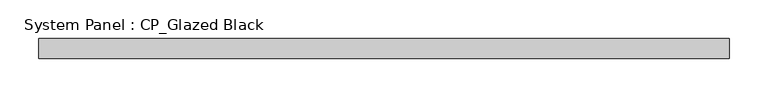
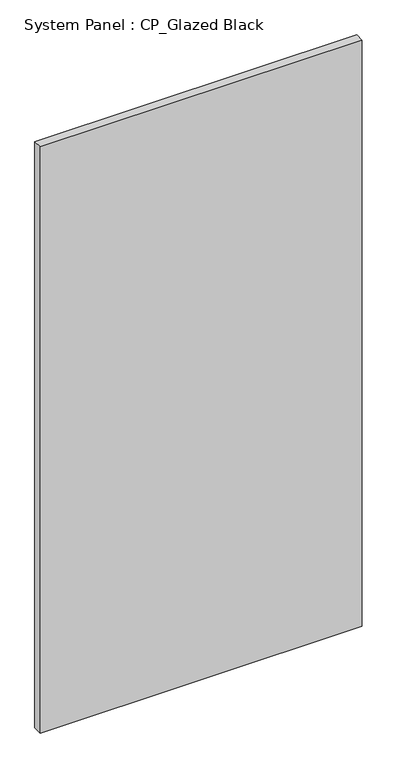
"""IFC4 building model written with IfcOpenShell, lengths in millimetres: plate geometry, System Panel : CP_Glazed Black."""

import ifcopenshell
import ifcopenshell.guid

model = None  # the IFC model being written
_history = None  # IfcOwnerHistory: only IFC2X3 demands one
_inside = {}  # id of a spatial element -> (the spatial element, [elements in it])
_under = {}  # id of a project, library or spatial element -> (it, [spatial elements below it])
_declared = {}  # id of a project -> (the project, [libraries it declares])
_typed = {}  # id of a type object -> (the type object, [elements of that type])
_made_of = {}  # id of a material, layer set ... -> (it, [elements and type objects made of it])


def new_model(schema):
    """Start an empty IFC model of exactly this schema.

    Asked for "IFC4X3", IfcOpenShell would pick the latest addendum, in which some entities
    have other attributes; the version numbers below select the first issue.
    IFC2X3 requires an IfcOwnerHistory on every rooted entity: one is made here for all.
    """
    global model, _history
    if schema == "IFC4X3":
        model = ifcopenshell.file(schema_version=(4, 3, 0, 0))
    else:
        model = ifcopenshell.file(schema=schema)
    _inside.clear()
    _under.clear()
    _declared.clear()
    _typed.clear()
    _made_of.clear()
    _history = None
    if model.schema == "IFC2X3":
        org = make("IfcOrganization", Name="unknown")
        user = make(
            "IfcPersonAndOrganization",
            ThePerson=make("IfcPerson", FamilyName="unknown"),
            TheOrganization=org,
        )
        app = make(
            "IfcApplication",
            ApplicationDeveloper=org,
            Version="unknown",
            ApplicationFullName="unknown",
            ApplicationIdentifier="unknown",
        )
        _history = make(
            "IfcOwnerHistory",
            OwningUser=user,
            OwningApplication=app,
            ChangeAction="ADDED",
            CreationDate=0,
        )
    return model


def make(cls, **values):
    """One entity of the class cls with the attributes given. An attribute that is None is left unset."""
    return model.create_entity(
        cls, **{name: value for name, value in values.items() if value is not None}
    )


def rooted(cls, **values):
    """An entity with a GlobalId (a new one), such as an element, a storey or a relation."""
    return make(cls, GlobalId=ifcopenshell.guid.new(), OwnerHistory=_history, **values)


def si_unit(unit_type, name, prefix=None):
    """IfcSIUnit, for example si_unit("LENGTHUNIT", "METRE", prefix="MILLI")."""
    return make("IfcSIUnit", UnitType=unit_type, Prefix=prefix, Name=name)


def assignment(units):
    """IfcUnitAssignment: the units of a project."""
    return None if units is None else make("IfcUnitAssignment", Units=units)


def point(xyz):
    """IfcCartesianPoint."""
    return None if xyz is None else make("IfcCartesianPoint", Coordinates=xyz)


def direction(xyz):
    """IfcDirection."""
    return None if xyz is None else make("IfcDirection", DirectionRatios=xyz)


def frame(location, z_axis=None, x_axis=None):
    """IfcAxis2Placement3D, a coordinate frame: its origin and axes. An axis left out is left unset."""
    return make(
        "IfcAxis2Placement3D",
        Location=point(location),
        Axis=direction(z_axis),
        RefDirection=direction(x_axis),
    )


def origin():
    """The frame at (0, 0, 0) with its axes left unset."""
    return frame((0.0, 0.0, 0.0))


def origin_with_axes():
    """The frame at (0, 0, 0) with the z axis (0, 0, 1) and the x axis (1, 0, 0) written out."""
    return frame((0.0, 0.0, 0.0), z_axis=(0.0, 0.0, 1.0), x_axis=(1.0, 0.0, 0.0))


def place(relative_to, where):
    """IfcLocalPlacement: puts the frame where relative to a parent placement (None: the world)."""
    return make(
        "IfcLocalPlacement", PlacementRelTo=relative_to, RelativePlacement=where
    )


def context(
    kind, dimensions, precision=None, world=None, true_north=None, identifier=None
):
    """IfcGeometricRepresentationContext, for example the 3D "Model" context."""
    return make(
        "IfcGeometricRepresentationContext",
        ContextIdentifier=identifier,
        ContextType=kind,
        CoordinateSpaceDimension=dimensions,
        Precision=precision,
        WorldCoordinateSystem=world,
        TrueNorth=true_north,
    )


def project(units=None, contexts=None):
    """IfcProject with its units and contexts."""
    return rooted(
        "IfcProject",
        Name="project",
        RepresentationContexts=contexts,
        UnitsInContext=assignment(units),
    )


def spatial(cls, under=None, at=None, **own):
    """A site, building, storey or space (cls), placed at a placement, below another one or the project."""
    s = rooted(cls, ObjectPlacement=at, **own)
    if under is not None:
        _under.setdefault(under.id(), (under, []))[1].append(s)
    return s


def polyline(points):
    """IfcPolyline through the points."""
    return make("IfcPolyline", Points=[point(p) for p in points])


def outline(outer, holes=None, kind="AREA"):
    """IfcArbitraryClosedProfileDef: a profile drawn as a closed curve; with holes, ...WithVoids."""
    if holes is None:
        return make("IfcArbitraryClosedProfileDef", ProfileType=kind, OuterCurve=outer)
    return make(
        "IfcArbitraryProfileDefWithVoids",
        ProfileType=kind,
        OuterCurve=outer,
        InnerCurves=holes,
    )


def extrude(swept, where, along, depth):
    """IfcExtrudedAreaSolid: the profile swept, set in the frame where, extruded along a direction by depth."""
    return make(
        "IfcExtrudedAreaSolid",
        SweptArea=swept,
        Position=where,
        ExtrudedDirection=direction(along),
        Depth=depth,
    )


def shape(context_of_items, identifier, shape_type, items):
    """IfcShapeRepresentation: the items that make up one representation, for example the "Body"."""
    return make(
        "IfcShapeRepresentation",
        ContextOfItems=context_of_items,
        RepresentationIdentifier=identifier,
        RepresentationType=shape_type,
        Items=items,
    )


def source(mapping_origin, context_of_items, identifier, shape_type, items):
    """IfcRepresentationMap: a shape defined once, which mapped items show again and again."""
    return make(
        "IfcRepresentationMap",
        MappingOrigin=mapping_origin,
        MappedRepresentation=shape(context_of_items, identifier, shape_type, items),
    )


def transform(
    local_origin,
    x_axis=None,
    y_axis=None,
    z_axis=None,
    scale=None,
    scale2=None,
    scale3=None,
    uniform=True,
):
    """IfcCartesianTransformationOperator3D, or its non-uniform kind. x_axis, y_axis, z_axis: its Axis1, 2, 3."""
    if uniform:
        return make(
            "IfcCartesianTransformationOperator3D",
            Axis1=direction(x_axis),
            Axis2=direction(y_axis),
            LocalOrigin=point(local_origin),
            Scale=scale,
            Axis3=direction(z_axis),
        )
    return make(
        "IfcCartesianTransformationOperator3DnonUniform",
        Axis1=direction(x_axis),
        Axis2=direction(y_axis),
        LocalOrigin=point(local_origin),
        Scale=scale,
        Axis3=direction(z_axis),
        Scale2=scale2,
        Scale3=scale3,
    )


def mapped(mapping_source, mapping_target):
    """IfcMappedItem: shows the shape of a source again, moved by a transform."""
    return make(
        "IfcMappedItem", MappingSource=mapping_source, MappingTarget=mapping_target
    )


def made_of(thing, what):
    """Note that an element or type object is made of a material, layer set ...; save() writes the relation."""
    if what is not None:
        _made_of.setdefault(what.id(), (what, []))[1].append(thing)
    return thing


def element(
    cls,
    number,
    at=None,
    inside=None,
    cuts=None,
    type_object=None,
    material=None,
    context=None,
    identifier="Body",
    shape_type=None,
    held_by="IfcProductDefinitionShape",
    body=None,
    shapes=None,
    **own,
):
    """One element of the class cls, such as IfcWall. Its Tag is "e" and its number.

    at: its placement. inside: the storey or other place that contains it. cuts: it is an
    opening in that element (IfcRelVoidsElement). A single representation is given by context,
    identifier, shape_type and body (its items); several are given by shapes. held_by: the class
    of the entity that holds the representations. save() writes the other relations.
    """
    e = rooted(cls, Tag="e%d" % number, ObjectPlacement=at, **own)
    if body is not None:
        shapes = [shape(context, identifier, shape_type, body)]
    if shapes is not None:
        e.Representation = make(held_by, Representations=shapes)
    if inside is not None:
        _inside.setdefault(inside.id(), (inside, []))[1].append(e)
    if cuts is not None:
        rooted(
            "IfcRelVoidsElement", RelatingBuildingElement=cuts, RelatedOpeningElement=e
        )
    if type_object is not None:
        _typed.setdefault(type_object.id(), (type_object, []))[1].append(e)
    return made_of(e, material)


def aggregate(whole, parts):
    """IfcRelAggregates: a whole, such as a stair, and the parts it consists of."""
    return rooted("IfcRelAggregates", RelatingObject=whole, RelatedObjects=parts)


def save(model, path):
    """Write the relations noted so far, then the file.

    IfcRelAggregates (storeys below a building ...), IfcRelContainedInSpatialStructure (elements
    in a storey), IfcRelDefinesByType, IfcRelAssociatesMaterial and IfcRelDeclares: one each for
    every whole, place, type object, material and project.
    """
    for whole, parts in _under.values():
        aggregate(whole, parts)
    for where, things in _inside.values():
        rooted(
            "IfcRelContainedInSpatialStructure",
            RelatedElements=things,
            RelatingStructure=where,
        )
    for kind, things in _typed.values():
        rooted("IfcRelDefinesByType", RelatedObjects=things, RelatingType=kind)
    for what, things in _made_of.values():
        rooted("IfcRelAssociatesMaterial", RelatedObjects=things, RelatingMaterial=what)
    for by, libraries in _declared.values():
        rooted("IfcRelDeclares", RelatingContext=by, RelatedDefinitions=libraries)
    model.write(path)


def system_panel_cp_glazed_black_77d8769d(model_context):
    return source(origin(), model_context, "Body", "SweptSolid", [
        extrude(outline(polyline([(442.3795381, 19.05), (-442.3795381, 19.05), (-442.3795381, 44.45), (442.3795381, 44.45), (442.3795381, 19.05)])), origin_with_axes(), (0.0, 0.0, 1.0), 1701.8),
    ])


if __name__ == "__main__":
    model = new_model("IFC4")
    model_context = context("Model", 3, world=origin())
    ifc_project = project(units=[si_unit("LENGTHUNIT", "METRE", prefix="MILLI")], contexts=[model_context])
    site = spatial("IfcSite", under=ifc_project)
    building = spatial("IfcBuilding", under=site)
    placement = place(None, origin())
    system_panel_cp_glazed_black_shape = system_panel_cp_glazed_black_77d8769d(model_context)
    element("IfcPlate", 1, ObjectType="System Panel : CP_Glazed Black", at=placement, inside=building, context=model_context, shape_type="MappedRepresentation", body=[
        mapped(system_panel_cp_glazed_black_shape, transform((0.0, 0.0, 0.0), x_axis=(1.0, 0.0, 0.0), y_axis=(0.0, 1.0, 0.0), z_axis=(0.0, 0.0, 1.0))),
    ])
    save(model, "model.ifc")
